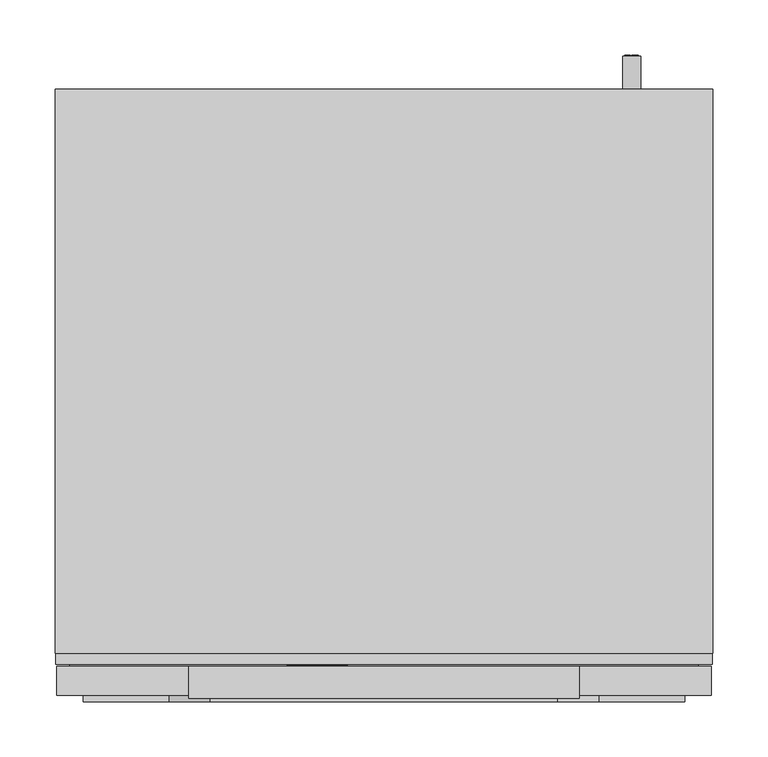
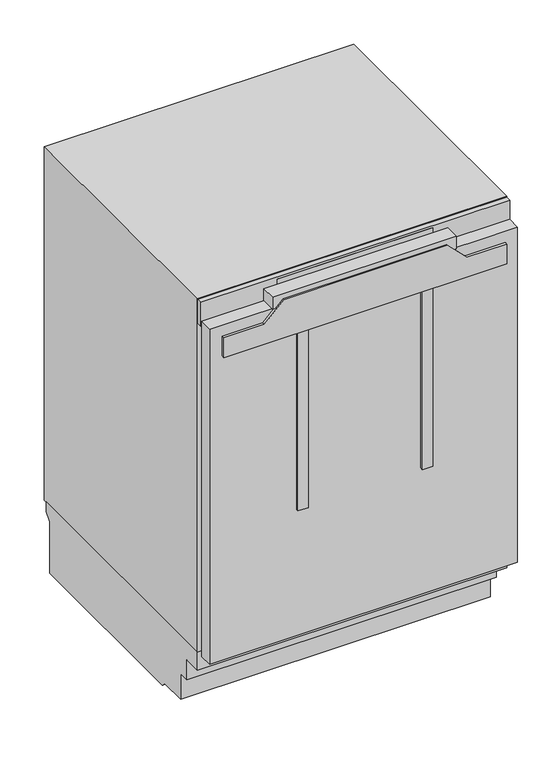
"""IFC4 building model written with IfcOpenShell, lengths in millimetres: proxy geometry, 12519150_EU1_KU7030D : 36703010_EU1_12519150_KU7030D."""

from ifc_helpers import new_model, si_unit, point, frame, frame_2d, origin, origin_with_axes, place, context, project, spatial, polyline, circle_curve, ellipse_curve, trimmed, segment, composite_curve, outline, extrude, faceted_brep, source, transform, mapped, element, save
from ifc_brep_helpers import plane_surface, cylinder_surface, revolved_surface, extruded_surface, advanced_brep


def specialty_equipment_2f0a3ffb(model_context):
    return source(origin(), model_context, "Body", "SolidModel", [
        extrude(outline(polyline([(835.9349293, -88.017), (835.9349293, -86.928), (829.9139293, -86.928), (829.9139293, -88.017), (828.4019293, -88.017), (828.4019293, -84.057), (829.9139293, -84.057), (829.9139293, -85.137), (833.7360541, -85.137), (828.4019293, -81.114), (833.8421516, -77.073), (829.9139293, -77.073), (829.9139293, -78.18), (828.4019293, -78.18), (828.4019293, -70.998), (829.9139293, -70.998), (829.9139293, -72.141), (835.9349293, -72.141), (835.9349293, -70.998), (837.4019293, -70.998), (837.4019293, -76.479), (834.0269293, -79.107), (837.4019293, -81.744), (837.4019293, -88.017), (835.9349293, -88.017)])), frame((0.0, 33.1, 0.0), z_axis=(0.0, 1.0, 0.0), x_axis=(0.0, 0.0, 1.0)), (0.0, 0.0, 1.0), 1.0),
        extrude(outline(polyline([(835.9349293, -51.495), (835.9349293, -50.415), (829.9139293, -50.415), (829.9139293, -51.495), (828.4019293, -51.495), (828.4019293, -44.196), (829.9139293, -44.196), (829.9139293, -45.303), (837.4019293, -45.303), (837.4019293, -51.495), (835.9349293, -51.495)])), frame((0.0, 33.1, 0.0), z_axis=(0.0, 1.0, 0.0), x_axis=(0.0, 0.0, 1.0)), (0.0, 0.0, 1.0), 1.0),
        extrude(outline(polyline([(836.8709293, -67.857), (835.4129293, -67.173), (836.8349293, -64.122), (838.2929293, -64.797), (836.8709293, -67.857)])), frame((0.0, 33.1, 0.0), z_axis=(0.0, 1.0, 0.0), x_axis=(0.0, 0.0, 1.0)), (0.0, 0.0, 1.0), 1.0),
        extrude(outline(polyline([(835.2149293, -70.08), (833.6039293, -70.08), (833.6039293, -69.009), (829.9139293, -69.009), (829.9139293, -70.08), (828.4019293, -70.08), (828.4019293, -62.979), (829.9139293, -62.979), (829.9139293, -64.023), (835.2149293, -64.023), (835.2149293, -70.08)])), frame((0.0, 33.1, 0.0), z_axis=(0.0, 1.0, 0.0), x_axis=(0.0, 0.0, 1.0)), (0.0, 0.0, 1.0), 1.0),
        advanced_brep(
        [(-58.02, 33.1, 830.5349293), (-58.02, 33.1, 831.4439293), (-51.999, 33.1, 831.4439293), (-62.475, 33.1, 831.4439293), (-60.0, 33.1, 828.4019293), (-52.152, 33.1, 830.5349293), (-54.87, 33.1, 830.5349293), (-57.012, 33.1, 829.5269293), (-58.02, 33.1, 832.5959293), (-58.02, 33.1, 833.5769293), (-56.481, 33.1, 833.5769293), (-56.481, 33.1, 832.5959293), (-58.02, 34.1, 830.5349293), (-57.012, 34.1, 829.5269293), (-54.87, 34.1, 830.5349293), (-52.152, 34.1, 830.5349293), (-60.0, 34.1, 828.4019293), (-62.475, 34.1, 831.4439293), (-51.999, 34.1, 831.4439293), (-58.02, 34.1, 831.4439293), (-58.02, 34.1, 832.5959293), (-56.481, 34.1, 832.5959293), (-56.481, 34.1, 833.5769293), (-58.02, 34.1, 833.5769293)],
        [
            (0, 1),
            (1, 2),
            (2, 3, ellipse_curve(frame((-57.237, 33.1, 831.4439293), z_axis=(0.0, -1.0, 0.0), x_axis=(-1.0, 0.0, 0.0)), 5.238, 4.329)),
            (3, 4, circle_curve(frame((-58.9919509, 33.1, 831.7499293), z_axis=(0.0, -1.0, 0.0), x_axis=(0.0, 0.0, -1.0)), 3.4964649)),
            (4, 5, circle_curve(frame((-57.3418572, 33.1, 834.1259293), z_axis=(0.0, -1.0, 0.0), x_axis=(0.0, 0.0, -1.0)), 6.3110933)),
            (5, 6),
            (6, 7, circle_curve(frame((-56.5720588, 33.1, 831.3719293), z_axis=(0.0, 1.0, 0.0), x_axis=(0.0, 0.0, -1.0)), 1.896727)),
            (7, 0, circle_curve(frame((-57.012, 33.1, 830.5349293), z_axis=(0.0, 1.0, 0.0), x_axis=(0.0, 0.0, -1.0)), 1.008)),
            (8, 9),
            (9, 10, circle_curve(frame((-57.2505, 33.1, 833.5769293), z_axis=(0.0, 1.0, 0.0), x_axis=(0.0, 0.0, -1.0)), 0.7695)),
            (10, 11),
            (11, 8),
            (12, 13, circle_curve(frame((-57.012, 34.1, 830.5349293), z_axis=(0.0, -1.0, 0.0), x_axis=(0.0, 0.0, -1.0)), 1.008)),
            (13, 14, circle_curve(frame((-56.5720588, 34.1, 831.3719293), z_axis=(0.0, -1.0, 0.0), x_axis=(0.0, 0.0, -1.0)), 1.896727)),
            (14, 15),
            (15, 16, circle_curve(frame((-57.3418572, 34.1, 834.1259293), z_axis=(0.0, 1.0, 0.0), x_axis=(0.0, 0.0, -1.0)), 6.3110933)),
            (16, 17, circle_curve(frame((-58.9919509, 34.1, 831.7499293), z_axis=(0.0, 1.0, 0.0), x_axis=(0.0, 0.0, -1.0)), 3.4964649)),
            (17, 18, ellipse_curve(frame((-57.237, 34.1, 831.4439293), z_axis=(0.0, 1.0, 0.0), x_axis=(-1.0, 0.0, 0.0)), 5.238, 4.329)),
            (18, 19),
            (19, 12),
            (20, 21),
            (21, 22),
            (22, 23, circle_curve(frame((-57.2505, 34.1, 833.5769293), z_axis=(0.0, -1.0, 0.0), x_axis=(0.0, 0.0, -1.0)), 0.7695)),
            (23, 20),
            (0, 12),
            (19, 1),
            (18, 2),
            (5, 15),
            (14, 6),
            (17, 3),
            (13, 7),
            (16, 4),
            (8, 20),
            (23, 9),
            (22, 10),
            (21, 11),
        ],
        [
            plane_surface(frame((-58.02, 33.1, 831.4439293), z_axis=(0.0, -1.0, 0.0), x_axis=(0.0, 0.0, 1.0))),
            plane_surface(frame((-58.02, 34.1, 831.4439293), z_axis=(0.0, 1.0, 0.0), x_axis=(0.0, 0.0, -1.0))),
            plane_surface(frame((-58.02, 33.1, 830.5349293), z_axis=(1.0, 0.0, 0.0), x_axis=(0.0, 1.0, 0.0))),
            plane_surface(frame((-58.02, 33.1, 831.4439293), z_axis=(0.0, 0.0, -1.0), x_axis=(0.0, 1.0, 0.0))),
            plane_surface(frame((-52.152, 33.1, 830.5349293), z_axis=(0.0, 0.0, 1.0), x_axis=(0.0, 1.0, 0.0))),
            extruded_surface(trimmed(ellipse_curve(frame((-57.237, 35.1, 831.4439293), z_axis=(0.0, -1.0, 0.0), x_axis=(-1.0, 0.0, 0.0)), 5.238, 4.329), [point((-51.999, 35.1, 831.4439293))], [point((-62.475, 35.1, 831.4439293))], True, "CARTESIAN"), (0.0, -1.0, 0.0), 1.0),
            revolved_surface(polyline([(-56.5720588, 34.1, 829.4752023), (-56.5720588, 33.1, 829.4752023)]), (-56.5720588, 34.1, 831.3719293), (0.0, 1.0, 0.0)),
            revolved_surface(polyline([(-57.012, 34.1, 829.5269293), (-57.012, 33.1, 829.5269293)]), (-57.012, 34.1, 830.5349293), (0.0, 1.0, 0.0)),
            cylinder_surface(frame((-58.9919509, 34.1, 831.7499293), z_axis=(0.0, -1.0, 0.0), x_axis=(0.0, 0.0, -1.0)), 3.4964649),
            cylinder_surface(frame((-57.3418572, 34.1, 834.1259293), z_axis=(0.0, -1.0, 0.0), x_axis=(0.0, 0.0, -1.0)), 6.3110933),
            plane_surface(frame((-58.02, 33.1, 832.5959293), z_axis=(1.0, 0.0, 0.0), x_axis=(0.0, 1.0, 0.0))),
            revolved_surface(polyline([(-57.2505, 34.1, 832.8074293), (-57.2505, 33.1, 832.8074293)]), (-57.2505, 34.1, 833.5769293), (0.0, 1.0, 0.0)),
            plane_surface(frame((-56.481, 33.1, 833.5769293), z_axis=(-1.0, 0.0, 0.0), x_axis=(0.0, 1.0, 0.0))),
            plane_surface(frame((-56.481, 33.1, 832.5959293), z_axis=(0.0, 0.0, 1.0), x_axis=(0.0, 1.0, 0.0))),
        ],
        [
            (0, [[1, 2, 3, 4, 5, 6, 7, 8], [9, 10, 11, 12]]),
            (1, [[13, 14, 15, 16, 17, 18, 19, 20], [21, 22, 23, 24]]),
            (2, [[-1, 25, -20, 26]]),
            (3, [[-2, -26, -19, 27]]),
            (4, [[-6, 28, -15, 29]]),
            (5, [[-3, -27, -18, 30]]),
            (6, [[-7, -29, -14, 31]]),
            (7, [[-8, -31, -13, -25]]),
            (8, [[-4, -30, -17, 32]]),
            (9, [[-5, -32, -16, -28]]),
            (10, [[-9, 33, -24, 34]]),
            (11, [[-10, -34, -23, 35]]),
            (12, [[-11, -35, -22, 36]]),
            (13, [[-12, -36, -21, -33]]),
        ],
    ),
        advanced_brep(
        [(-39.237, 33.1, 830.5349293), (-39.237, 33.1, 831.4439293), (-33.216, 33.1, 831.4439293), (-43.692, 33.1, 831.4439293), (-41.217, 33.1, 828.4019293), (-33.369, 33.1, 830.5349293), (-36.087, 33.1, 830.5349293), (-38.229, 33.1, 829.5269293), (-39.237, 33.1, 832.5959293), (-39.237, 33.1, 833.5769293), (-37.698, 33.1, 833.5769293), (-37.698, 33.1, 832.5959293), (-39.237, 34.1, 830.5349293), (-38.229, 34.1, 829.5269293), (-36.087, 34.1, 830.5349293), (-33.369, 34.1, 830.5349293), (-41.217, 34.1, 828.4019293), (-43.692, 34.1, 831.4439293), (-33.216, 34.1, 831.4439293), (-39.237, 34.1, 831.4439293), (-39.237, 34.1, 832.5959293), (-37.698, 34.1, 832.5959293), (-37.698, 34.1, 833.5769293), (-39.237, 34.1, 833.5769293)],
        [
            (0, 1),
            (1, 2),
            (2, 3, ellipse_curve(frame((-38.454, 33.1, 831.4439293), z_axis=(0.0, -1.0, 0.0), x_axis=(-1.0, 0.0, 0.0)), 5.238, 4.329)),
            (3, 4, circle_curve(frame((-40.2089509, 33.1, 831.7499293), z_axis=(0.0, -1.0, 0.0), x_axis=(0.0, 0.0, -1.0)), 3.4964649)),
            (4, 5, circle_curve(frame((-38.5588572, 33.1, 834.1259293), z_axis=(0.0, -1.0, 0.0), x_axis=(0.0, 0.0, -1.0)), 6.3110933)),
            (5, 6),
            (6, 7, circle_curve(frame((-37.7890588, 33.1, 831.3719293), z_axis=(0.0, 1.0, 0.0), x_axis=(0.0, 0.0, -1.0)), 1.896727)),
            (7, 0, circle_curve(frame((-38.229, 33.1, 830.5349293), z_axis=(0.0, 1.0, 0.0), x_axis=(0.0, 0.0, -1.0)), 1.008)),
            (8, 9),
            (9, 10, circle_curve(frame((-38.4675, 33.1, 833.5769293), z_axis=(0.0, 1.0, 0.0), x_axis=(0.0, 0.0, -1.0)), 0.7695)),
            (10, 11),
            (11, 8),
            (12, 13, circle_curve(frame((-38.229, 34.1, 830.5349293), z_axis=(0.0, -1.0, 0.0), x_axis=(0.0, 0.0, -1.0)), 1.008)),
            (13, 14, circle_curve(frame((-37.7890588, 34.1, 831.3719293), z_axis=(0.0, -1.0, 0.0), x_axis=(0.0, 0.0, -1.0)), 1.896727)),
            (14, 15),
            (15, 16, circle_curve(frame((-38.5588572, 34.1, 834.1259293), z_axis=(0.0, 1.0, 0.0), x_axis=(0.0, 0.0, -1.0)), 6.3110933)),
            (16, 17, circle_curve(frame((-40.2089509, 34.1, 831.7499293), z_axis=(0.0, 1.0, 0.0), x_axis=(0.0, 0.0, -1.0)), 3.4964649)),
            (17, 18, ellipse_curve(frame((-38.454, 34.1, 831.4439293), z_axis=(0.0, 1.0, 0.0), x_axis=(-1.0, 0.0, 0.0)), 5.238, 4.329)),
            (18, 19),
            (19, 12),
            (20, 21),
            (21, 22),
            (22, 23, circle_curve(frame((-38.4675, 34.1, 833.5769293), z_axis=(0.0, -1.0, 0.0), x_axis=(0.0, 0.0, -1.0)), 0.7695)),
            (23, 20),
            (0, 12),
            (19, 1),
            (18, 2),
            (5, 15),
            (14, 6),
            (17, 3),
            (13, 7),
            (16, 4),
            (8, 20),
            (23, 9),
            (22, 10),
            (21, 11),
        ],
        [
            plane_surface(frame((-39.237, 33.1, 831.4439293), z_axis=(0.0, -1.0, 0.0), x_axis=(0.0, 0.0, 1.0))),
            plane_surface(frame((-39.237, 34.1, 831.4439293), z_axis=(0.0, 1.0, 0.0), x_axis=(0.0, 0.0, -1.0))),
            plane_surface(frame((-39.237, 33.1, 830.5349293), z_axis=(1.0, 0.0, 0.0), x_axis=(0.0, 1.0, 0.0))),
            plane_surface(frame((-39.237, 33.1, 831.4439293), z_axis=(0.0, 0.0, -1.0), x_axis=(0.0, 1.0, 0.0))),
            plane_surface(frame((-33.369, 33.1, 830.5349293), z_axis=(0.0, 0.0, 1.0), x_axis=(0.0, 1.0, 0.0))),
            extruded_surface(trimmed(ellipse_curve(frame((-38.454, 35.1, 831.4439293), z_axis=(0.0, -1.0, 0.0), x_axis=(-1.0, 0.0, 0.0)), 5.238, 4.329), [point((-33.216, 35.1, 831.4439293))], [point((-43.692, 35.1, 831.4439293))], True, "CARTESIAN"), (0.0, -1.0, 0.0), 1.0),
            revolved_surface(polyline([(-37.7890588, 34.1, 829.4752023), (-37.7890588, 33.1, 829.4752023)]), (-37.7890588, 34.1, 831.3719293), (0.0, 1.0, 0.0)),
            revolved_surface(polyline([(-38.229, 34.1, 829.5269293), (-38.229, 33.1, 829.5269293)]), (-38.229, 34.1, 830.5349293), (0.0, 1.0, 0.0)),
            cylinder_surface(frame((-40.2089509, 34.1, 831.7499293), z_axis=(0.0, -1.0, 0.0), x_axis=(0.0, 0.0, -1.0)), 3.4964649),
            cylinder_surface(frame((-38.5588572, 34.1, 834.1259293), z_axis=(0.0, -1.0, 0.0), x_axis=(0.0, 0.0, -1.0)), 6.3110933),
            plane_surface(frame((-39.237, 33.1, 832.5959293), z_axis=(1.0, 0.0, 0.0), x_axis=(0.0, 1.0, 0.0))),
            revolved_surface(polyline([(-38.4675, 34.1, 832.8074293), (-38.4675, 33.1, 832.8074293)]), (-38.4675, 34.1, 833.5769293), (0.0, 1.0, 0.0)),
            plane_surface(frame((-37.698, 33.1, 833.5769293), z_axis=(-1.0, 0.0, 0.0), x_axis=(0.0, 1.0, 0.0))),
            plane_surface(frame((-37.698, 33.1, 832.5959293), z_axis=(0.0, 0.0, 1.0), x_axis=(0.0, 1.0, 0.0))),
        ],
        [
            (0, [[1, 2, 3, 4, 5, 6, 7, 8], [9, 10, 11, 12]]),
            (1, [[13, 14, 15, 16, 17, 18, 19, 20], [21, 22, 23, 24]]),
            (2, [[-1, 25, -20, 26]]),
            (3, [[-2, -26, -19, 27]]),
            (4, [[-6, 28, -15, 29]]),
            (5, [[-3, -27, -18, 30]]),
            (6, [[-7, -29, -14, 31]]),
            (7, [[-8, -31, -13, -25]]),
            (8, [[-4, -30, -17, 32]]),
            (9, [[-5, -32, -16, -28]]),
            (10, [[-9, 33, -24, 34]]),
            (11, [[-10, -34, -23, 35]]),
            (12, [[-11, -35, -22, 36]]),
            (13, [[-12, -36, -21, -33]]),
        ],
    ),
        extrude(outline(polyline([(150.0048218, 34.0937347), (-150.0048218, 34.0937347), (-150.0048218, 44.0), (150.0048218, 44.0), (150.0048218, 34.0937347)])), frame((0.0, 0.0, 813.2139282), z_axis=(0.0, 0.0, 1.0), x_axis=(1.0, 0.0, 0.0)), (0.0, 0.0, 1.0), 39.9850464),
        extrude(outline(polyline([(857.6989746, 298.0), (857.6989746, -298.0), (808.7051238, -298.0), (808.7051238, 298.0), (857.6989746, 298.0)]), holes=[polyline([(853.1989746, -150.0048218), (853.1989746, 150.0048218), (813.2139282, 150.0048218), (813.2139282, -150.0048218), (853.1989746, -150.0048218)])]), frame((0.0, 34.0937347, 0.0), z_axis=(0.0, 1.0, 0.0), x_axis=(0.0, 0.0, 1.0)), (0.0, 0.0, 1.0), 9.9062653),
        faceted_brep([(-298.5, 550.1, 137.8999939), (-298.5, 550.1, 117.6051112), (-298.5, 537.6, 105.1051112), (-298.5, 537.6, 0.0), (-298.5, 161.2567793, 0.0), (-298.5, 152.9391747, 8.3176046), (-298.5, 100.0, 8.3176046), (-298.5, 100.0, 60.7725754), (-298.5, 79.0216446, 60.7725754), (-298.5, 79.0216446, 101.8184894), (-298.5, 44.0, 101.8184894), (-298.5, 44.0, 137.8999939), (298.5, 550.1, 137.8999939), (298.5, 44.0, 137.8999939), (298.5, 44.0, 101.8184894), (298.5, 79.0216446, 101.8184894), (298.5, 79.0216446, 60.7725754), (298.5, 100.0, 60.7725754), (298.5, 100.0, 8.3176046), (298.5, 152.9391747, 8.3176046), (298.5, 161.2567793, 0.0), (298.5, 537.6, 0.0), (298.5, 537.6, 105.1051112), (298.5, 550.1, 117.6051112), (296.7000122, 463.8596389, 0.0), (256.5957336, 463.8596389, 0.0), (256.5957336, 399.1975098, 0.0), (296.7000122, 399.1975098, 0.0), (-296.7000122, 463.8596389, 0.0), (-296.7000122, 399.1975098, 0.0), (-256.5957336, 399.1975098, 0.0), (-256.5957336, 463.8596389, 0.0), (296.7000122, 463.8596389, 8.7371401), (296.7000122, 399.1975098, 8.7371401), (256.5957336, 399.1975098, 8.7371401), (256.5957336, 463.8596389, 8.7371401), (-296.7000122, 463.8596389, 8.7371401), (-256.5957336, 463.8596389, 8.7371401), (-256.5957336, 399.1975098, 8.7371401), (-296.7000122, 399.1975098, 8.7371401)], [[[0, 1, 2, 3, 4, 5, 6, 7, 8, 9, 10, 11]], [[12, 13, 14, 15, 16, 17, 18, 19, 20, 21, 22, 23]], [[0, 11, 13, 12]], [[11, 10, 14, 13]], [[10, 9, 15, 14]], [[9, 8, 16, 15]], [[8, 7, 17, 16]], [[7, 6, 18, 17]], [[6, 5, 19, 18]], [[5, 4, 20, 19]], [[4, 3, 21, 20], [24, 25, 26, 27], [28, 29, 30, 31]], [[3, 2, 22, 21]], [[2, 1, 23, 22]], [[1, 0, 12, 23]], [[32, 33, 34, 35]], [[36, 37, 38, 39]], [[32, 35, 25, 24]], [[35, 34, 26, 25]], [[34, 33, 27, 26]], [[33, 32, 24, 27]], [[36, 39, 29, 28]], [[39, 38, 30, 29]], [[38, 37, 31, 30]], [[37, 36, 28, 31]]]),
        faceted_brep([(298.5, 44.0, 859.0), (298.5, 44.0, 137.8999939), (298.5, 556.2, 137.8999939), (298.5, 556.2, 859.0), (-298.5, 44.0, 859.0), (-298.5, 556.2, 859.0), (-298.5, 556.2, 137.8999939), (-298.5, 44.0, 137.8999939), (263.0, 44.0, 759.0), (263.0, 44.0, 160.0), (-263.0, 44.0, 160.0), (-263.0, 44.0, 759.0), (263.0, 510.8638012, 160.0), (263.0, 510.8638012, 759.0), (-263.0, 510.8638012, 759.0), (-263.0, 510.8638012, 160.0)], [[[0, 1, 2, 3]], [[4, 5, 6, 7]], [[1, 0, 4, 7], [8, 9, 10, 11]], [[2, 1, 7, 6]], [[3, 2, 6, 5]], [[0, 3, 5, 4]], [[12, 13, 14, 15]], [[13, 12, 9, 8]], [[14, 13, 8, 11]], [[15, 14, 11, 10]], [[12, 15, 10, 9]]]),
        extrude(outline(polyline([(263.0, 510.8638012), (263.0, 339.3), (-263.0, 339.3), (-263.0, 510.8638012), (263.0, 510.8638012)])), frame((0.0, 0.0, 160.0), z_axis=(0.0, 0.0, 1.0), x_axis=(1.0, 0.0, 0.0)), (0.0, 0.0, 1.0), 61.8999939),
        extrude(outline(composite_curve([segment(trimmed(circle_curve(frame_2d((-270.8532135, 136.0)), 15.7049948), [point((-286.5582083, 136.0))], [point((-255.1482187, 136.0))], False, "CARTESIAN"), True, "CONTINUOUS"), segment(trimmed(circle_curve(frame_2d((-270.8532135, 136.0)), 15.7049948), [point((-255.1482187, 136.0))], [point((-286.5582083, 136.0))], False, "CARTESIAN"), True, "CONTINUOUS")], self_intersect=False)), origin_with_axes(), (0.0, 0.0, 1.0), 8.3176046),
        extrude(outline(composite_curve([segment(trimmed(circle_curve(frame_2d((270.8532135, 136.0)), 15.7049948), [point((286.5582083, 136.0))], [point((255.1482187, 136.0))], False, "CARTESIAN"), True, "CONTINUOUS"), segment(trimmed(circle_curve(frame_2d((270.8532135, 136.0)), 15.7049948), [point((255.1482187, 136.0))], [point((286.5582083, 136.0))], False, "CARTESIAN"), True, "CONTINUOUS")], self_intersect=False)), origin_with_axes(), (0.0, 0.0, 1.0), 8.3176046),
        extrude(outline(composite_curve([segment(trimmed(circle_curve(frame_2d((-275.822369, 437.7)), 16.0), [point((-291.822369, 437.7))], [point((-259.822369, 437.7))], False, "CARTESIAN"), True, "CONTINUOUS"), segment(trimmed(circle_curve(frame_2d((-275.822369, 437.7)), 16.0), [point((-259.822369, 437.7))], [point((-291.822369, 437.7))], False, "CARTESIAN"), True, "CONTINUOUS")], self_intersect=False)), origin_with_axes(), (0.0, 0.0, 1.0), 8.3176046),
        extrude(outline(composite_curve([segment(trimmed(circle_curve(frame_2d((275.822369, 437.7)), 16.0), [point((259.822369, 437.7))], [point((291.822369, 437.7))], False, "CARTESIAN"), True, "CONTINUOUS"), segment(trimmed(circle_curve(frame_2d((275.822369, 437.7)), 16.0), [point((291.822369, 437.7))], [point((259.822369, 437.7))], False, "CARTESIAN"), True, "CONTINUOUS")], self_intersect=False)), origin_with_axes(), (0.0, 0.0, 1.0), 8.3176046),
        extrude(outline(composite_curve([segment(trimmed(circle_curve(frame_2d((144.2460785, 224.8152695)), 8.0), [point((144.2460785, 216.8152695))], [point((144.2460785, 232.8152695))], False, "CARTESIAN"), True, "CONTINUOUS"), segment(trimmed(circle_curve(frame_2d((144.2460785, 224.8152695)), 8.0), [point((144.2460785, 232.8152695))], [point((144.2460785, 216.8152695))], False, "CARTESIAN"), True, "CONTINUOUS")], self_intersect=False)), frame((0.0, 556.2, 0.0), z_axis=(0.0, 1.0, 0.0), x_axis=(0.0, 0.0, 1.0)), (0.0, 0.0, 1.0), 30.0),
        extrude(outline(polyline([(140.2460785, 230.7170777), (148.2825833, 230.7170777), (148.2825833, 224.9408399), (147.2780202, 224.9408399), (147.2780202, 229.7125146), (144.8921828, 229.7125146), (144.8921828, 225.1919806), (143.8876197, 225.1919806), (143.8876197, 229.7125146), (141.2506416, 229.7125146), (141.2506416, 224.8152695), (140.2460785, 224.8152695), (140.2460785, 230.7170777)])), frame((0.0, 586.2, 0.0), z_axis=(0.0, 1.0, 0.0), x_axis=(0.0, 0.0, 1.0)), (0.0, 0.0, 1.0), 1.0),
        extrude(outline(polyline([(140.2460785, 223.3084248), (148.2825833, 223.3084248), (148.2825833, 222.3038617), (141.2506416, 222.3038617), (141.2506416, 218.2856093), (140.2460785, 218.2856093), (140.2460785, 223.3084248)])), frame((0.0, 586.2, 0.0), z_axis=(0.0, 1.0, 0.0), x_axis=(0.0, 0.0, 1.0)), (0.0, 0.0, 1.0), 1.0),
        extrude(outline(polyline([(297.0, 6.0), (-297.0, 6.0), (-297.0, 32.0), (297.0, 32.0), (297.0, 6.0)])), frame((0.0, 0.0, 136.0), z_axis=(0.0, 0.0, 1.0), x_axis=(1.0, 0.0, 0.0)), (0.0, 0.0, 1.0), 684.0),
        extrude(outline(polyline([(285.0, 44.0), (285.0, 32.0), (-285.0, 32.0), (-285.0, 44.0), (285.0, 44.0)])), frame((0.0, 0.0, 148.5030441), z_axis=(0.0, 0.0, 1.0), x_axis=(1.0, 0.0, 0.0)), (0.0, 0.0, 1.0), 655.9969559),
        extrude(outline(polyline([(844.6210938, 177.3252429), (844.6210938, -177.3251393), (820.0, -177.3252429), (820.0, 177.3252429), (844.6210938, 177.3252429)])), frame((0.0, 3.0, 0.0), z_axis=(0.0, 1.0, 0.0), x_axis=(0.0, 0.0, 1.0)), (0.0, 0.0, 1.0), 29.0),
        extrude(outline(polyline([(797.315066, -195.1876874), (797.315066, -272.9755319), (756.8499888, -272.9755319), (756.8499888, 272.9755319), (797.315066, 272.9755319), (797.315066, 195.1876874), (834.938205, 157.5645484), (834.938205, -157.5645484), (797.315066, -195.1876874)])), frame((0.0, 0.0, 0.0), z_axis=(0.0, 1.0, 0.0), x_axis=(0.0, 0.0, 1.0)), (0.0, 0.0, 1.0), 6.0),
        extrude(outline(polyline([(-110.0, 0.0), (-130.0, 0.0), (-130.0, 6.0), (-110.0, 6.0), (-110.0, 0.0)])), frame((0.0, 0.0, 394.1054382), z_axis=(0.0, 0.0, 1.0), x_axis=(1.0, 0.0, 0.0)), (0.0, 0.0, 1.0), 362.7445505),
        extrude(outline(polyline([(130.0, 0.0), (110.0, 0.0), (110.0, 6.0), (130.0, 6.0), (130.0, 0.0)])), frame((0.0, 0.0, 394.1054382), z_axis=(0.0, 0.0, 1.0), x_axis=(1.0, 0.0, 0.0)), (0.0, 0.0, 1.0), 362.7445505),
    ])


if __name__ == "__main__":
    model = new_model("IFC4")
    model_context = context("Model", 3, world=origin())
    ifc_project = project(units=[si_unit("LENGTHUNIT", "METRE", prefix="MILLI")], contexts=[model_context])
    site = spatial("IfcSite", under=ifc_project)
    building = spatial("IfcBuilding", under=site)
    placement = place(None, origin())
    specialty_equipment_shape = specialty_equipment_2f0a3ffb(model_context)
    element("IfcBuildingElementProxy", 1, Name="12519150_EU1_KU7030D : 36703010_EU1_12519150_KU7030D", ObjectType="12519150_EU1_KU7030D : 36703010_EU1_12519150_KU7030D", at=placement, inside=building, context=model_context, shape_type="MappedRepresentation", body=[
        mapped(specialty_equipment_shape, transform((0.0, 0.0, 0.0), x_axis=(1.0, 0.0, 0.0), y_axis=(0.0, 1.0, 0.0), z_axis=(0.0, 0.0, 1.0))),
    ])
    save(model, "model.ifc")
